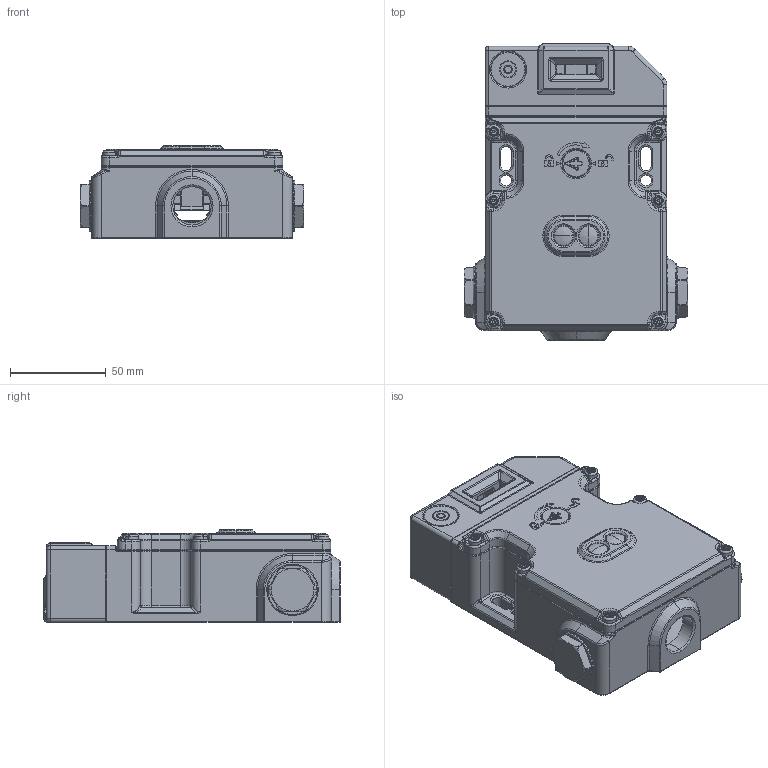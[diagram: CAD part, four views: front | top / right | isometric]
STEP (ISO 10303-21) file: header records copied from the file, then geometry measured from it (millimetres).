
FILE_DESCRIPTION (( 'STEP AP203' ), '1' );
FILE_NAME ('KLTM-RFID (step format).STEP', '2012-05-22T14:47:00', ( '' ), ( '' ), 'SwSTEP 2.0', 'SolidWorks 2010', '' );
FILE_SCHEMA (( 'CONFIG_CONTROL_DESIGN' ));
Length unit declared in the file: millimetre
Products named in the file (1): KLTM-RFID (step format)
Bounding box: 117 x 155 x 48.5 mm (x, y, z)
Surface area: 78210.4 mm2 (no closed solid volume)
Topology: 0 solids, 33 shells, 1621 faces, 4892 edges, 3133 vertices
Faces by surface type: cylinder 657, plane 374, torus 249, bspline 202, cone 115, sphere 24
Entity records: 63383 total; most frequent: CARTESIAN_POINT 20899, DIRECTION 9308, ORIENTED_EDGE 8164, EDGE_CURVE 4855, AXIS2_PLACEMENT_3D 3667, VERTEX_POINT 3133, CIRCLE 2247, VECTOR 1974
